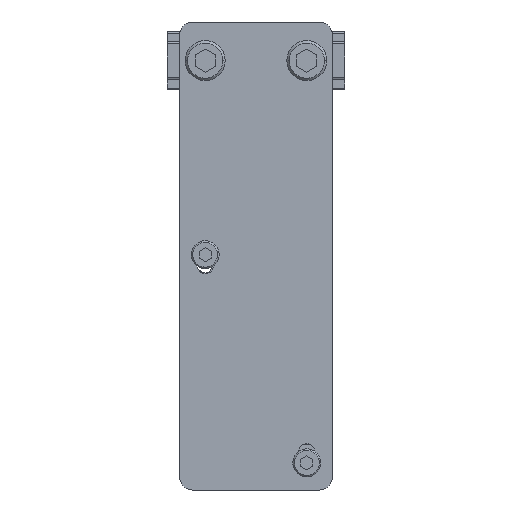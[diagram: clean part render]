
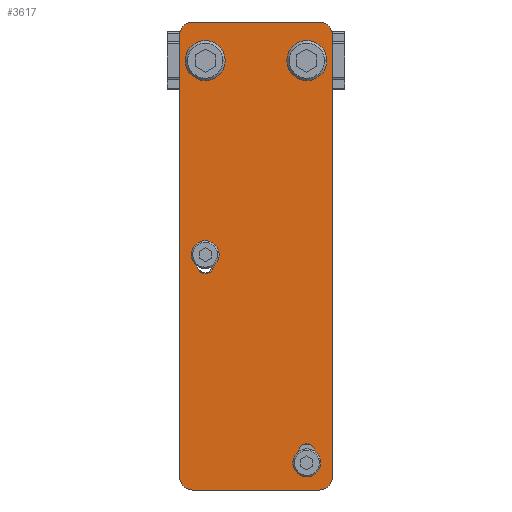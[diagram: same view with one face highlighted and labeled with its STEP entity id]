
A CAD part, front view. The second image highlights one B-rep face of the part: STEP entity #3617.
In plain terms, the highlighted planar face has unit normal (0, -1, 0) as drawn and (0, 0, 1) by its records, which use the part's own axes.
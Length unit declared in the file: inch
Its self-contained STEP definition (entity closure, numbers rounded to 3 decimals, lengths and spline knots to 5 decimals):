
#3236=CARTESIAN_POINT('',(-0.5,0.,0.179));
#3237=DIRECTION('',(0.,0.,1.));
#3238=DIRECTION('',(1.,0.,0.));
#3239=AXIS2_PLACEMENT_3D('',#3236,#3237,#3238);
#3241=CARTESIAN_POINT('',(-0.5,0.,0.179));
#3242=DIRECTION('',(0.,0.,1.));
#3243=DIRECTION('',(-1.,0.,0.));
#3244=AXIS2_PLACEMENT_3D('',#3241,#3242,#3243);
#3246=DIRECTION('',(0.,-1.,0.));
#3247=VECTOR('',#3246,0.11);
#3248=CARTESIAN_POINT('',(-0.579,3.9585,0.179));
#3249=LINE('',#3248,#3247);
#3250=CARTESIAN_POINT('',(-0.5,3.8485,0.179));
#3251=DIRECTION('',(0.,0.,1.));
#3252=DIRECTION('',(-1.,0.,0.));
#3253=AXIS2_PLACEMENT_3D('',#3250,#3251,#3252);
#3255=DIRECTION('',(0.,1.,0.));
#3256=VECTOR('',#3255,0.11);
#3257=CARTESIAN_POINT('',(-0.421,3.8485,0.179));
#3258=LINE('',#3257,#3256);
#3259=CARTESIAN_POINT('',(-0.5,3.9585,0.179));
#3260=DIRECTION('',(0.,0.,1.));
#3261=DIRECTION('',(1.,0.,0.));
#3262=AXIS2_PLACEMENT_3D('',#3259,#3260,#3261);
#3264=CARTESIAN_POINT('',(0.5,0.,0.179));
#3265=DIRECTION('',(0.,0.,1.));
#3266=DIRECTION('',(1.,0.,0.));
#3267=AXIS2_PLACEMENT_3D('',#3264,#3265,#3266);
#3269=CARTESIAN_POINT('',(0.5,0.,0.179));
#3270=DIRECTION('',(0.,0.,1.));
#3271=DIRECTION('',(-1.,0.,0.));
#3272=AXIS2_PLACEMENT_3D('',#3269,#3270,#3271);
#3274=DIRECTION('',(0.,-1.,0.));
#3275=VECTOR('',#3274,0.11);
#3276=CARTESIAN_POINT('',(0.421,2.0205,0.179));
#3277=LINE('',#3276,#3275);
#3278=CARTESIAN_POINT('',(0.5,1.9105,0.179));
#3279=DIRECTION('',(0.,0.,1.));
#3280=DIRECTION('',(-1.,0.,0.));
#3281=AXIS2_PLACEMENT_3D('',#3278,#3279,#3280);
#3283=DIRECTION('',(0.,1.,0.));
#3284=VECTOR('',#3283,0.11);
#3285=CARTESIAN_POINT('',(0.579,1.9105,0.179));
#3286=LINE('',#3285,#3284);
#3287=CARTESIAN_POINT('',(0.5,2.0205,0.179));
#3288=DIRECTION('',(0.,0.,1.));
#3289=DIRECTION('',(1.,0.,0.));
#3290=AXIS2_PLACEMENT_3D('',#3287,#3288,#3289);
#3292=CARTESIAN_POINT('',(0.625,4.1005,0.179));
#3293=DIRECTION('',(0.,0.,1.));
#3294=DIRECTION('',(1.,0.,0.));
#3295=AXIS2_PLACEMENT_3D('',#3292,#3293,#3294);
#3297=DIRECTION('',(0.,1.,0.));
#3298=VECTOR('',#3297,4.3555);
#3299=CARTESIAN_POINT('',(0.75,-0.255,0.179));
#3300=LINE('',#3299,#3298);
#3301=CARTESIAN_POINT('',(0.625,-0.255,0.179));
#3302=DIRECTION('',(0.,0.,1.));
#3303=DIRECTION('',(0.,-1.,0.));
#3304=AXIS2_PLACEMENT_3D('',#3301,#3302,#3303);
#3306=DIRECTION('',(1.,0.,0.));
#3307=VECTOR('',#3306,1.25);
#3308=CARTESIAN_POINT('',(-0.625,-0.38,0.179));
#3309=LINE('',#3308,#3307);
#3310=CARTESIAN_POINT('',(-0.625,-0.255,0.179));
#3311=DIRECTION('',(0.,0.,1.));
#3312=DIRECTION('',(-1.,0.,0.));
#3313=AXIS2_PLACEMENT_3D('',#3310,#3311,#3312);
#3315=DIRECTION('',(0.,-1.,0.));
#3316=VECTOR('',#3315,4.3555);
#3317=CARTESIAN_POINT('',(-0.75,4.1005,0.179));
#3318=LINE('',#3317,#3316);
#3319=CARTESIAN_POINT('',(-0.625,4.1005,0.179));
#3320=DIRECTION('',(0.,0.,1.));
#3321=DIRECTION('',(0.,1.,0.));
#3322=AXIS2_PLACEMENT_3D('',#3319,#3320,#3321);
#3324=DIRECTION('',(-1.,0.,0.));
#3325=VECTOR('',#3324,1.25);
#3326=CARTESIAN_POINT('',(0.625,4.2255,0.179));
#3327=LINE('',#3326,#3325);
#3404=CARTESIAN_POINT('',(-0.375,0.,0.179));
#3405=CARTESIAN_POINT('',(-0.625,0.,0.179));
#3406=VERTEX_POINT('',#3404);
#3407=VERTEX_POINT('',#3405);
#3416=CARTESIAN_POINT('',(-0.579,3.9585,0.179));
#3417=CARTESIAN_POINT('',(-0.579,3.8485,0.179));
#3418=VERTEX_POINT('',#3416);
#3419=VERTEX_POINT('',#3417);
#3420=CARTESIAN_POINT('',(-0.421,3.8485,0.179));
#3421=VERTEX_POINT('',#3420);
#3422=CARTESIAN_POINT('',(-0.421,3.9585,0.179));
#3423=VERTEX_POINT('',#3422);
#3436=CARTESIAN_POINT('',(0.625,0.,0.179));
#3437=CARTESIAN_POINT('',(0.375,0.,0.179));
#3438=VERTEX_POINT('',#3436);
#3439=VERTEX_POINT('',#3437);
#3440=CARTESIAN_POINT('',(0.421,2.0205,0.179));
#3441=CARTESIAN_POINT('',(0.421,1.9105,0.179));
#3442=VERTEX_POINT('',#3440);
#3443=VERTEX_POINT('',#3441);
#3444=CARTESIAN_POINT('',(0.579,1.9105,0.179));
#3445=VERTEX_POINT('',#3444);
#3446=CARTESIAN_POINT('',(0.579,2.0205,0.179));
#3447=VERTEX_POINT('',#3446);
#3452=CARTESIAN_POINT('',(0.75,4.1005,0.179));
#3453=VERTEX_POINT('',#3452);
#3454=CARTESIAN_POINT('',(0.625,4.2255,0.179));
#3455=VERTEX_POINT('',#3454);
#3460=CARTESIAN_POINT('',(-0.625,4.2255,0.179));
#3461=VERTEX_POINT('',#3460);
#3462=CARTESIAN_POINT('',(-0.75,4.1005,0.179));
#3463=VERTEX_POINT('',#3462);
#3468=CARTESIAN_POINT('',(-0.75,-0.255,0.179));
#3469=VERTEX_POINT('',#3468);
#3470=CARTESIAN_POINT('',(-0.625,-0.38,0.179));
#3471=VERTEX_POINT('',#3470);
#3476=CARTESIAN_POINT('',(0.625,-0.38,0.179));
#3477=VERTEX_POINT('',#3476);
#3478=CARTESIAN_POINT('',(0.75,-0.255,0.179));
#3479=VERTEX_POINT('',#3478);
#3564=CARTESIAN_POINT('',(0.,0.,0.179));
#3565=DIRECTION('',(0.,0.,1.));
#3566=DIRECTION('',(1.,0.,0.));
#3567=AXIS2_PLACEMENT_3D('',#3564,#3565,#3566);
#3568=PLANE('',#3567);
#3570=ORIENTED_EDGE('',*,*,#3569,.F.);
#3572=ORIENTED_EDGE('',*,*,#3571,.F.);
#3574=ORIENTED_EDGE('',*,*,#3573,.F.);
#3576=ORIENTED_EDGE('',*,*,#3575,.F.);
#3578=ORIENTED_EDGE('',*,*,#3577,.F.);
#3580=ORIENTED_EDGE('',*,*,#3579,.F.);
#3582=ORIENTED_EDGE('',*,*,#3581,.F.);
#3584=ORIENTED_EDGE('',*,*,#3583,.F.);
#3585=EDGE_LOOP('',(#3570,#3572,#3574,#3576,#3578,#3580,#3582,#3584));
#3586=FACE_OUTER_BOUND('',#3585,.F.);
#3588=ORIENTED_EDGE('',*,*,#3587,.T.);
#3590=ORIENTED_EDGE('',*,*,#3589,.T.);
#3592=ORIENTED_EDGE('',*,*,#3591,.T.);
#3594=ORIENTED_EDGE('',*,*,#3593,.T.);
#3595=EDGE_LOOP('',(#3588,#3590,#3592,#3594));
#3596=FACE_BOUND('',#3595,.F.);
#3598=ORIENTED_EDGE('',*,*,#3597,.T.);
#3600=ORIENTED_EDGE('',*,*,#3599,.T.);
#3601=EDGE_LOOP('',(#3598,#3600));
#3602=FACE_BOUND('',#3601,.F.);
#3604=ORIENTED_EDGE('',*,*,#3603,.T.);
#3606=ORIENTED_EDGE('',*,*,#3605,.T.);
#3608=ORIENTED_EDGE('',*,*,#3607,.T.);
#3610=ORIENTED_EDGE('',*,*,#3609,.T.);
#3611=EDGE_LOOP('',(#3604,#3606,#3608,#3610));
#3612=FACE_BOUND('',#3611,.F.);
#3613=ORIENTED_EDGE('',*,*,#3544,.T.);
#3614=ORIENTED_EDGE('',*,*,#3558,.T.);
#3615=EDGE_LOOP('',(#3613,#3614));
#3616=FACE_BOUND('',#3615,.F.);
#3240=CIRCLE('',#3239,0.125);
#3245=CIRCLE('',#3244,0.125);
#3254=CIRCLE('',#3253,0.079);
#3263=CIRCLE('',#3262,0.079);
#3268=CIRCLE('',#3267,0.125);
#3273=CIRCLE('',#3272,0.125);
#3282=CIRCLE('',#3281,0.079);
#3291=CIRCLE('',#3290,0.079);
#3296=CIRCLE('',#3295,0.125);
#3305=CIRCLE('',#3304,0.125);
#3314=CIRCLE('',#3313,0.125);
#3323=CIRCLE('',#3322,0.125);
#3544=EDGE_CURVE('',#3406,#3407,#3240,.T.);
#3558=EDGE_CURVE('',#3407,#3406,#3245,.T.);
#3569=EDGE_CURVE('',#3453,#3455,#3296,.T.);
#3571=EDGE_CURVE('',#3479,#3453,#3300,.T.);
#3573=EDGE_CURVE('',#3477,#3479,#3305,.T.);
#3575=EDGE_CURVE('',#3471,#3477,#3309,.T.);
#3577=EDGE_CURVE('',#3469,#3471,#3314,.T.);
#3579=EDGE_CURVE('',#3463,#3469,#3318,.T.);
#3581=EDGE_CURVE('',#3461,#3463,#3323,.T.);
#3583=EDGE_CURVE('',#3455,#3461,#3327,.T.);
#3587=EDGE_CURVE('',#3418,#3419,#3249,.T.);
#3589=EDGE_CURVE('',#3419,#3421,#3254,.T.);
#3591=EDGE_CURVE('',#3421,#3423,#3258,.T.);
#3593=EDGE_CURVE('',#3423,#3418,#3263,.T.);
#3597=EDGE_CURVE('',#3438,#3439,#3268,.T.);
#3599=EDGE_CURVE('',#3439,#3438,#3273,.T.);
#3603=EDGE_CURVE('',#3442,#3443,#3277,.T.);
#3605=EDGE_CURVE('',#3443,#3445,#3282,.T.);
#3607=EDGE_CURVE('',#3445,#3447,#3286,.T.);
#3609=EDGE_CURVE('',#3447,#3442,#3291,.T.);
#3617=ADVANCED_FACE('',(#3586,#3596,#3602,#3612,#3616),#3568,.T.);
